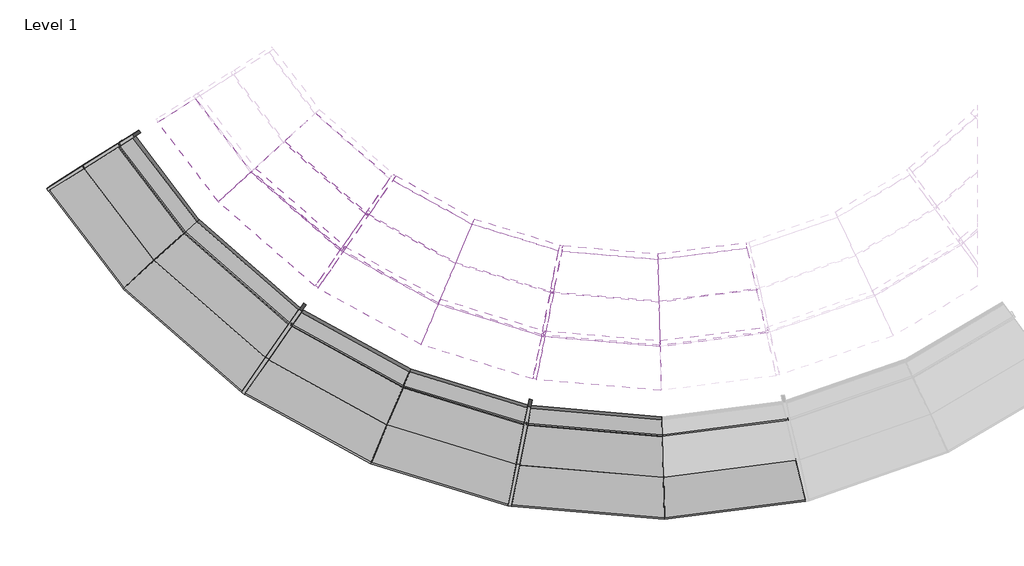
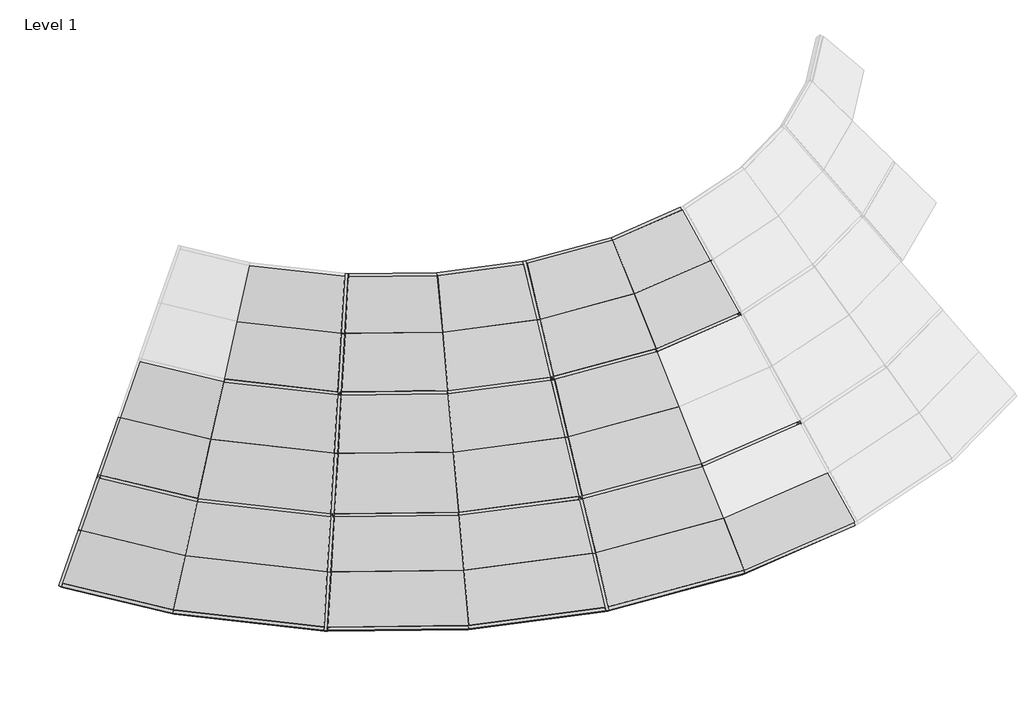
# One storey, part 1 of 2: 36 members, 31 plates.
"""IFC4 building model written with IfcOpenShell, lengths in millimetres."""

from ifc_helpers import new_model, si_unit, origin, place, context, project, spatial, transform, mapped, element, save
from components import member_a993bdff, member_64ad3ddf, member_56d069ed, member_b45a1477, member_31f4e101, member_a1d7378d, member_0bac036f, member_e9a455c1, member_9319c4a2, member_b02eb1a0, member_f55f91ff, member_0534a094, member_226e51d8, member_2e5d21c2, member_49f7380d, member_2f360e33, member_c28e9521, member_cc67d64b, member_50b54f6d, member_8a53927b, member_fc53ac5e, member_ebc3b6e9, member_abb03c45, member_4c4cfe9a, member_10256ac6, member_1aaaed21, member_643fa319, member_295a5b2f, member_dc7dd58b, member_6563c648, system_panel_glazed_624191a1, system_panel_glazed_b52af536, system_panel_glazed_36dbcd62, system_panel_glazed_2de7df7e, system_panel_glazed_fd240ddc, system_panel_glazed_68762a55, system_panel_glazed_360c3214, system_panel_glazed_6b9a0c10, system_panel_glazed_12144cfa, system_panel_glazed_97049040, system_panel_glazed_1057b75c, system_panel_glazed_ad4a3e8e, system_panel_glazed_f43337e1, system_panel_glazed_18ed63e1, system_panel_glazed_a21bd47d, system_panel_glazed_fd4f438a, system_panel_glazed_bbd553d4, system_panel_glazed_e0575ccd, system_panel_glazed_33f22fd7, system_panel_glazed_00944ce8, system_panel_glazed_3ab7e21a, system_panel_glazed_ec5c0f32, system_panel_glazed_562aa659, system_panel_glazed_28409379, system_panel_glazed_5fdba696, system_panel_glazed_e1973138, system_panel_glazed_29ad7663, system_panel_glazed_cde3eb99, system_panel_glazed_4134886b, system_panel_glazed_000a9f1f, system_panel_glazed_c75c15cb

model = new_model("IFC4")

# Units and contexts
model_context = context("Model", 3, world=origin())
ifc_project = project(units=[si_unit("LENGTHUNIT", "METRE", prefix="MILLI")], contexts=[model_context])

# Site, building, storey
site = spatial("IfcSite", under=ifc_project)
building = spatial("IfcBuilding", under=site)
storey = spatial("IfcBuildingStorey", under=building, Name="Level 1", Elevation=0.0)

# Members
placement = place(None, origin())
member_shape = member_a993bdff(model_context)
element("IfcMember", 1, ObjectType="Rectangular Mullion : 1.5\" x 2.5\" rectangular", at=placement, inside=storey, context=model_context, shape_type="MappedRepresentation", body=[
    mapped(member_shape, transform((-6841.3188567, -169.6858181, 981.6469515), x_axis=(0.5636611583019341, 0.42927745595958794, 0.7056960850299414), y_axis=(0.5614189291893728, 0.42756958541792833, -0.7085146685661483), z_axis=(-0.6058835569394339, 0.7955533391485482, -1.2187862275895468e-07))),
])
member_2_shape = member_64ad3ddf(model_context)
element("IfcMember", 2, ObjectType="Rectangular Mullion : 1.5\" x 2.5\" rectangular", at=placement, inside=storey, context=model_context, shape_type="MappedRepresentation", body=[
    mapped(member_2_shape, transform((-7672.1636982, -692.4934216, 0.0), x_axis=(-0.5693047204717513, 0.8209135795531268, 0.044643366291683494), y_axis=(0.5636612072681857, 0.4292773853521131, -0.7056960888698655), z_axis=(-0.5984798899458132, -0.3765923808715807, -0.7071067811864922))),
])
member_3_shape = member_56d069ed(model_context)
element("IfcMember", 3, ObjectType="Rectangular Mullion : 1.5\" x 2.5\" rectangular", at=placement, inside=storey, context=model_context, shape_type="MappedRepresentation", body=[
    mapped(member_3_shape, transform((-7250.8393516, -427.3758437, 497.7966805), x_axis=(-0.5693047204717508, 0.820913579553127, 0.04464336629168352), y_axis=(0.5636612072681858, 0.4292773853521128, -0.7056960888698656), z_axis=(-0.5984798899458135, -0.3765923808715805, -0.7071067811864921))),
])
member_4_shape = member_b45a1477(model_context)
element("IfcMember", 4, ObjectType="Rectangular Mullion : 1.5\" x 2.5\" rectangular", at=placement, inside=storey, context=model_context, shape_type="MappedRepresentation", body=[
    mapped(member_4_shape, transform((-6841.3189444, -169.6858733, 981.6469515), x_axis=(-0.5693047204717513, 0.820913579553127, 0.04464336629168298), y_axis=(0.563661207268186, 0.4292773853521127, -0.7056960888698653), z_axis=(-0.5984798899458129, -0.37659238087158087, -0.7071067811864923))),
])
member_5_shape = member_31f4e101(model_context)
element("IfcMember", 5, ObjectType="Rectangular Mullion : 1.5\" x 2.5\" rectangular", at=placement, inside=storey, context=model_context, shape_type="MappedRepresentation", body=[
    mapped(member_5_shape, transform((-5289.8761774, -495.1789903, 2022.8309839), x_axis=(0.4668071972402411, 0.5340948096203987, 0.7048643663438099), y_axis=(0.46386448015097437, 0.5307198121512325, -0.7093421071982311), z_axis=(-0.752941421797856, 0.6580875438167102, -3.7831857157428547e-06))),
])
member_6_shape = member_a1d7378d(model_context)
element("IfcMember", 6, ObjectType="Rectangular Mullion : 1.5\" x 2.5\" rectangular", at=placement, inside=storey, context=model_context, shape_type="MappedRepresentation", body=[
    mapped(member_6_shape, transform((-4241.3728252, -1411.5923329, 2022.8362519), x_axis=(0.3417091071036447, 0.6212001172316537, 0.7052271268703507), y_axis=(0.33989758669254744, 0.6179117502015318, -0.7089814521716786), z_axis=(-0.8761874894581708, 0.4819704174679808, 1.6517300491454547e-06))),
])
member_7_shape = member_0bac036f(model_context)
element("IfcMember", 7, ObjectType="Rectangular Mullion : 1.5\" x 2.5\" rectangular", at=placement, inside=storey, context=model_context, shape_type="MappedRepresentation", body=[
    mapped(member_7_shape, transform((-6058.6867468, -1197.3180572, 981.6471089), x_axis=(0.4668095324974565, 0.5340925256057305, 0.7048645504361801), y_axis=(0.46386293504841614, 0.5307214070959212, -0.7093419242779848), z_axis=(-0.7529409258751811, 0.6580881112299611, 8.541794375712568e-08))),
])
member_8_shape = member_e9a455c1(model_context)
element("IfcMember", 8, ObjectType="Rectangular Mullion : 1.5\" x 2.5\" rectangular", at=placement, inside=storey, context=model_context, shape_type="MappedRepresentation", body=[
    mapped(member_8_shape, transform((-4834.2984099, -2267.4623211, 981.64697), x_axis=(0.34170817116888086, 0.6212006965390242, 0.7052270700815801), y_axis=(0.339899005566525, 0.6179109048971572, -0.7089815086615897), z_axis=(-0.8761873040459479, 0.481970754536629, -2.937531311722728e-07))),
])
member_9_shape = member_9319c4a2(model_context)
element("IfcMember", 9, ObjectType="Rectangular Mullion : 1.5\" x 2.5\" rectangular", at=placement, inside=storey, context=model_context, shape_type="MappedRepresentation", body=[
    mapped(member_9_shape, transform((-5407.6603038, -3061.8516999, 0.0), x_axis=(-0.463862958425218, -0.5307213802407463, -0.7093419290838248), y_axis=(0.4668094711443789, 0.53409258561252, -0.7048645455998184), z_axis=(0.7529409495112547, -0.6580880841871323, 0.0))),
])
member_10_shape = member_b02eb1a0(model_context)
element("IfcMember", 10, ObjectType="Rectangular Mullion : 1.5\" x 2.5\" rectangular", at=placement, inside=storey, context=model_context, shape_type="MappedRepresentation", body=[
    mapped(member_10_shape, transform((-3657.5728627, -568.8949017, 3048.0), x_axis=(0.8220122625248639, -0.5694697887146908, 0.0), y_axis=(0.4026759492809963, 0.5812504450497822, -0.7071067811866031), z_axis=(0.40267594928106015, 0.5812504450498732, 0.707106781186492))),
])
element("IfcMember", 11, ObjectType="Rectangular Mullion : 1.5\" x 2.5\" rectangular", at=placement, inside=storey, context=model_context, shape_type="MappedRepresentation", body=[
    mapped(member_10_shape, transform((-1709.2857367, -1393.2573099, 3048.0), x_axis=(0.981106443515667, -0.19346872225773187, 0.0), y_axis=(0.13680304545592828, 0.69374701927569, -0.7071067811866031), z_axis=(0.13680304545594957, 0.693747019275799, 0.7071067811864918))),
])
member_11_shape = member_f55f91ff(model_context)
element("IfcMember", 12, ObjectType="Rectangular Mullion : 1.5\" x 2.5\" rectangular", at=placement, inside=storey, context=model_context, shape_type="MappedRepresentation", body=[
    mapped(member_11_shape, transform((-5109.836597, -2665.193286, 497.7967002), x_axis=(0.8220122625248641, -0.5694697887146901, 0.0), y_axis=(0.4026759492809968, 0.5812504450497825, -0.7071067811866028), z_axis=(0.40267594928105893, 0.5812504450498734, 0.7071067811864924))),
])
element("IfcMember", 13, ObjectType="Rectangular Mullion : 1.5\" x 2.5\" rectangular", at=placement, inside=storey, context=model_context, shape_type="MappedRepresentation", body=[
    mapped(member_11_shape, transform((-2202.6703142, -3895.2782177, 497.7966818), x_axis=(0.9811064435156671, -0.19346872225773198, 0.0), y_axis=(0.13680304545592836, 0.6937470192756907, -0.7071067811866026), z_axis=(0.13680304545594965, 0.6937470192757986, 0.7071067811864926))),
])
member_12_shape = member_0534a094(model_context)
element("IfcMember", 14, ObjectType="Rectangular Mullion : 1.5\" x 2.5\" rectangular", at=placement, inside=storey, context=model_context, shape_type="MappedRepresentation", body=[
    mapped(member_12_shape, transform((-4834.2984861, -2267.462431, 981.64697), x_axis=(0.8220122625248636, -0.569469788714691, 0.0), y_axis=(0.4026759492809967, 0.5812504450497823, -0.7071067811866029), z_axis=(0.40267594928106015, 0.5812504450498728, 0.7071067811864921))),
])
element("IfcMember", 15, ObjectType="Rectangular Mullion : 1.5\" x 2.5\" rectangular", at=placement, inside=storey, context=model_context, shape_type="MappedRepresentation", body=[
    mapped(member_12_shape, transform((-2109.0604205, -3420.5695992, 981.6469527), x_axis=(0.9811064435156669, -0.19346872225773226, 0.0), y_axis=(0.1368030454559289, 0.69374701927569, -0.707106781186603), z_axis=(0.13680304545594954, 0.693747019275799, 0.7071067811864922))),
])
member_13_shape = member_226e51d8(model_context)
element("IfcMember", 16, ObjectType="Rectangular Mullion : 1.5\" x 2.5\" rectangular", at=placement, inside=storey, context=model_context, shape_type="MappedRepresentation", body=[
    mapped(member_13_shape, transform((-4533.2776144, -1832.9479885, 1510.2454623), x_axis=(0.822012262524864, -0.5694697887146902, 0.0), y_axis=(0.4026759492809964, 0.5812504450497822, -0.7071067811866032), z_axis=(0.40267594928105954, 0.5812504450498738, 0.7071067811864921))),
])
element("IfcMember", 17, ObjectType="Rectangular Mullion : 1.5\" x 2.5\" rectangular", at=placement, inside=storey, context=model_context, shape_type="MappedRepresentation", body=[
    mapped(member_13_shape, transform((-2006.7931439, -2901.9582037, 1510.2454539), x_axis=(0.9811064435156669, -0.19346872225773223, 0.0), y_axis=(0.13680304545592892, 0.69374701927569, -0.7071067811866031), z_axis=(0.1368030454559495, 0.6937470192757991, 0.7071067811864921))),
])
member_14_shape = member_2e5d21c2(model_context)
element("IfcMember", 18, ObjectType="Rectangular Mullion : 1.5\" x 2.5\" rectangular", at=placement, inside=storey, context=model_context, shape_type="MappedRepresentation", body=[
    mapped(member_14_shape, transform((-4241.3726457, -1411.5920737, 2022.8362519), x_axis=(0.8220122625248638, -0.5694697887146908, 0.0), y_axis=(0.40267594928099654, 0.5812504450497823, -0.707106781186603), z_axis=(0.40267594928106, 0.5812504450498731, 0.7071067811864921))),
])
element("IfcMember", 19, ObjectType="Rectangular Mullion : 1.5\" x 2.5\" rectangular", at=placement, inside=storey, context=model_context, shape_type="MappedRepresentation", body=[
    mapped(member_14_shape, transform((-1907.6240078, -2399.0579039, 2022.8303045), x_axis=(0.981106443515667, -0.19346872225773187, 0.0), y_axis=(0.13680304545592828, 0.6937470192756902, -0.7071067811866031), z_axis=(0.13680304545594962, 0.6937470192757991, 0.7071067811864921))),
])
member_15_shape = member_49f7380d(model_context)
element("IfcMember", 20, ObjectType="Rectangular Mullion : 1.5\" x 2.5\" rectangular", at=placement, inside=storey, context=model_context, shape_type="MappedRepresentation", body=[
    mapped(member_15_shape, transform((-3949.4713398, -990.2414461, 2535.4206096), x_axis=(0.8220122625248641, -0.5694697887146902, 0.0), y_axis=(0.4026759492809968, 0.5812504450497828, -0.7071067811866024), z_axis=(0.402675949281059, 0.5812504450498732, 0.7071067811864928))),
])
element("IfcMember", 21, ObjectType="Rectangular Mullion : 1.5\" x 2.5\" rectangular", at=placement, inside=storey, context=model_context, shape_type="MappedRepresentation", body=[
    mapped(member_15_shape, transform((-1808.4548721, -1896.1576058, 2535.4151533), x_axis=(0.9811064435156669, -0.19346872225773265, 0.0), y_axis=(0.13680304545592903, 0.6937470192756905, -0.7071067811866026), z_axis=(0.13680304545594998, 0.6937470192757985, 0.7071067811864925))),
])
member_16_shape = member_2f360e33(model_context)
element("IfcMember", 22, ObjectType="Rectangular Mullion : 1.5\" x 2.5\" rectangular", at=placement, inside=storey, context=model_context, shape_type="MappedRepresentation", body=[
    mapped(member_16_shape, transform((-2724.3539922, -1082.2375426, 3048.0), x_axis=(0.2066064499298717, 0.6742968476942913, 0.7089693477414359), y_axis=(0.20769920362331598, 0.6778632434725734, -0.7052392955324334), z_axis=(-0.9561248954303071, 0.2929593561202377, 0.0))),
])
member_17_shape = member_c28e9521(model_context)
element("IfcMember", 23, ObjectType="Rectangular Mullion : 1.5\" x 2.5\" rectangular", at=placement, inside=storey, context=model_context, shape_type="MappedRepresentation", body=[
    mapped(member_17_shape, transform((-3123.5212422, -2026.5026563, 2022.8341441), x_axis=(0.20770103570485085, 0.6778625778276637, 0.7052393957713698), y_axis=(0.20660425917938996, 0.6742976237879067, -0.7089692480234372), z_axis=(-0.9561249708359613, 0.29295911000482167, 3.0191165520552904e-06))),
])
member_18_shape = member_cc67d64b(model_context)
element("IfcMember", 24, ObjectType="Rectangular Mullion : 1.5\" x 2.5\" rectangular", at=placement, inside=storey, context=model_context, shape_type="MappedRepresentation", body=[
    mapped(member_18_shape, transform((-1907.6236973, -2399.0563291, 2022.8303044), x_axis=(0.06023894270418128, 0.7066707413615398, 0.7049735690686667), y_axis=(0.059882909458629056, 0.7024256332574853, -0.7092335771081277), z_axis=(-0.9963861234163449, 0.08493934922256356, -4.122546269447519e-06))),
])
member_19_shape = member_50b54f6d(model_context)
element("IfcMember", 25, ObjectType="Rectangular Mullion : 1.5\" x 2.5\" rectangular", at=placement, inside=storey, context=model_context, shape_type="MappedRepresentation", body=[
    mapped(member_19_shape, transform((-3528.9242525, -2985.5190075, 981.6474077), x_axis=(0.20769946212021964, 0.67786314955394, 0.7052393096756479), y_axis=(0.20660630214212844, 0.6742969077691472, -0.7089693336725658), z_axis=(-0.9561248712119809, 0.29295943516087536, 3.06365223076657e-07))),
])
member_20_shape = member_8a53927b(model_context)
element("IfcMember", 26, ObjectType="Rectangular Mullion : 1.5\" x 2.5\" rectangular", at=placement, inside=storey, context=model_context, shape_type="MappedRepresentation", body=[
    mapped(member_20_shape, transform((-2109.0603864, -3420.5694261, 981.6469527), x_axis=(0.06024191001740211, 0.7066703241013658, 0.7049737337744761), y_axis=(0.05988047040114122, 0.7024260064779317, -0.7092334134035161), z_axis=(-0.9963860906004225, 0.08493973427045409, -2.6714959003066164e-07))),
])
member_21_shape = member_fc53ac5e(model_context)
element("IfcMember", 27, ObjectType="Rectangular Mullion : 1.5\" x 2.5\" rectangular", at=placement, inside=storey, context=model_context, shape_type="MappedRepresentation", body=[
    mapped(member_21_shape, transform((-2317.1925814, -4378.088874, 0.0), x_axis=(-0.20660644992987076, -0.6742968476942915, -0.7089693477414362), y_axis=(0.20769920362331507, 0.6778632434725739, -0.7052392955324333), z_axis=(0.9561248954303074, -0.2929593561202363, 0.0))),
])
member_22_shape = member_ebc3b6e9(model_context)
element("IfcMember", 28, ObjectType="Rectangular Mullion : 1.5\" x 2.5\" rectangular", at=placement, inside=storey, context=model_context, shape_type="MappedRepresentation", body=[
    mapped(member_22_shape, transform((-579.2926049, -1489.5868891, 3048.0), x_axis=(-0.08880436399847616, 0.699661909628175, 0.7089337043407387), y_axis=(-0.08926503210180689, 0.7032913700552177, -0.705275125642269), z_axis=(-0.9920410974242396, -0.12591449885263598, 0.0))),
])
member_23_shape = member_abb03c45(model_context)
element("IfcMember", 29, ObjectType="Rectangular Mullion : 1.5\" x 2.5\" rectangular", at=placement, inside=storey, context=model_context, shape_type="MappedRepresentation", body=[
    mapped(member_23_shape, transform((-554.0640778, -2514.4383187, 2022.8359044), x_axis=(-0.08927108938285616, 0.7032909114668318, 0.705274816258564), y_axis=(-0.0888037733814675, 0.6996616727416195, -0.7089340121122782), z_axis=(-0.9920406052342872, -0.12591837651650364, -4.673001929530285e-06))),
])
member_24_shape = member_4c4cfe9a(model_context)
element("IfcMember", 30, ObjectType="Rectangular Mullion : 1.5\" x 2.5\" rectangular", at=placement, inside=storey, context=model_context, shape_type="MappedRepresentation", body=[
    mapped(member_24_shape, transform((-528.4410883, -3555.3138857, 981.6473765), x_axis=(-0.08926489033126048, 0.703291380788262, 0.7052751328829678), y_axis=(-0.08880447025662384, 0.6996619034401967, -0.7089336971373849), z_axis=(-0.9920411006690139, -0.1259144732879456, 1.7542740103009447e-07))),
])
member_25_shape = member_10256ac6(model_context)
element("IfcMember", 31, ObjectType="Rectangular Mullion : 1.5\" x 2.5\" rectangular", at=placement, inside=storey, context=model_context, shape_type="MappedRepresentation", body=[
    mapped(member_25_shape, transform((1133.5252964, -4328.785439, 0.0), x_axis=(0.08880436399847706, -0.6996619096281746, -0.7089337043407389), y_axis=(-0.08926503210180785, 0.7032913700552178, -0.7052751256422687), z_axis=(0.9920410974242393, 0.12591449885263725, 0.0))),
])
member_26_shape = member_1aaaed21(model_context)
element("IfcMember", 32, ObjectType="Rectangular Mullion : 1.5\" x 2.5\" rectangular", at=placement, inside=storey, context=model_context, shape_type="MappedRepresentation", body=[
    mapped(member_26_shape, transform((-1690.3045819, -1394.8754141, 3048.0), x_axis=(0.05988036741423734, 0.7024260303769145, 0.7092333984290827), y_axis=(0.06024218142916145, 0.7066702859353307, -0.7049737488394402), z_axis=(-0.996386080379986, 0.0849398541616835, 0.0))),
])
member_27_shape = member_643fa319(model_context)
element("IfcMember", 33, ObjectType="Rectangular Mullion : 1.5\" x 2.5\" rectangular", at=placement, inside=storey, context=model_context, shape_type="MappedRepresentation", body=[
    mapped(member_27_shape, transform((-3640.8814954, -578.0764462, 3048.0), x_axis=(0.3398988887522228, 0.6179109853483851, 0.7089814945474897), y_axis=(0.3417084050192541, 0.6212005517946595, -0.7052270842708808), z_axis=(-0.8761872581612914, 0.4819708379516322, 0.0))),
])
member_28_shape = member_295a5b2f(model_context)
element("IfcMember", 34, ObjectType="Rectangular Mullion : 1.5\" x 2.5\" rectangular", at=placement, inside=storey, context=model_context, shape_type="MappedRepresentation", body=[
    mapped(member_28_shape, transform((-6783.5336838, -1859.3060323, 0.0), x_axis=(-0.561418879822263, -0.4275696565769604, -0.7085146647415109), y_axis=(0.5636612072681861, 0.4292773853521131, -0.705696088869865), z_axis=(0.6058835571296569, -0.7955533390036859, 0.0))),
])
member_29_shape = member_dc7dd58b(model_context)
element("IfcMember", 35, ObjectType="Rectangular Mullion : 1.5\" x 2.5\" rectangular", at=placement, inside=storey, context=model_context, shape_type="MappedRepresentation", body=[
    mapped(member_29_shape, transform((-3911.1456315, -3889.6971781, 0.0), x_axis=(-0.3398988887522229, -0.6179109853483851, -0.7089814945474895), y_axis=(0.34170840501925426, 0.6212005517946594, -0.705227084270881), z_axis=(0.8761872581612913, -0.48197083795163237, 0.0))),
])
member_30_shape = member_6563c648(model_context)
element("IfcMember", 36, ObjectType="Rectangular Mullion : 1.5\" x 2.5\" rectangular", at=placement, inside=storey, context=model_context, shape_type="MappedRepresentation", body=[
    mapped(member_30_shape, transform((-504.2834281, -4536.6637873, 0.0), x_axis=(-0.05988036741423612, -0.7024260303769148, -0.7092333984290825), y_axis=(0.0602421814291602, 0.7066702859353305, -0.7049737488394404), z_axis=(0.9963860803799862, -0.08493985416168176, 0.0))),
])

# Plates
system_panel_glazed_shape = system_panel_glazed_624191a1(model_context)
element("IfcPlate", 37, ObjectType="System Panel : Glazed", at=placement, inside=storey, context=model_context, shape_type="MappedRepresentation", body=[
    mapped(system_panel_glazed_shape, transform((-6821.8351252, -990.6781046, 497.7968484), x_axis=(0.6058835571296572, -0.795553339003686, 0.0), y_axis=(-0.563661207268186, -0.42927738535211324, 0.7056960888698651), z_axis=(-0.5614188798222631, -0.4275696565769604, -0.7085146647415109))),
])
system_panel_glazed_2_shape = system_panel_glazed_b52af536(model_context)
element("IfcPlate", 38, ObjectType="System Panel : Glazed", at=placement, inside=storey, context=model_context, shape_type="MappedRepresentation", body=[
    mapped(system_panel_glazed_2_shape, transform((-6449.1327719, -706.8326051, 968.1499047), x_axis=(0.605883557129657, -0.7955533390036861, 0.0), y_axis=(-0.5636612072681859, -0.42927738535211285, 0.7056960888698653), z_axis=(-0.5614188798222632, -0.4275696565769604, -0.7085146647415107))),
])
system_panel_glazed_3_shape = system_panel_glazed_36dbcd62(model_context)
element("IfcPlate", 39, ObjectType="System Panel : Glazed", at=placement, inside=storey, context=model_context, shape_type="MappedRepresentation", body=[
    mapped(system_panel_glazed_3_shape, transform((-6019.5825068, -379.6924508, 1510.2454287), x_axis=(0.6058835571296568, -0.7955533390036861, 0.0), y_axis=(-0.5636612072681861, -0.4292773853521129, 0.7056960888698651), z_axis=(-0.5614188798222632, -0.4275696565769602, -0.7085146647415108))),
])
system_panel_glazed_4_shape = system_panel_glazed_2de7df7e(model_context)
element("IfcPlate", 40, ObjectType="System Panel : Glazed", at=placement, inside=storey, context=model_context, shape_type="MappedRepresentation", body=[
    mapped(system_panel_glazed_4_shape, transform((-5624.1106074, -78.5060059, 2009.3337806), x_axis=(0.6058835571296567, -0.7955533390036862, 0.0), y_axis=(-0.5636612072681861, -0.4292773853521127, 0.7056960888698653), z_axis=(-0.5614188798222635, -0.4275696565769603, -0.7085146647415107))),
])
system_panel_glazed_5_shape = system_panel_glazed_fd240ddc(model_context)
element("IfcPlate", 41, ObjectType="System Panel : Glazed", at=placement, inside=storey, context=model_context, shape_type="MappedRepresentation", body=[
    mapped(system_panel_glazed_5_shape, transform((-4120.1015523, -200.3012155, 3020.9740725), x_axis=(0.752940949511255, -0.658088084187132, 0.0), y_axis=(-0.4668094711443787, -0.5340925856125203, 0.7048645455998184), z_axis=(-0.4638629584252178, -0.5307213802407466, -0.7093419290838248))),
])
system_panel_glazed_6_shape = system_panel_glazed_68762a55(model_context)
element("IfcPlate", 42, ObjectType="System Panel : Glazed", at=placement, inside=storey, context=model_context, shape_type="MappedRepresentation", body=[
    mapped(system_panel_glazed_6_shape, transform((-3195.5456794, -853.7116213, 3020.9878051), x_axis=(0.8761872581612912, -0.4819708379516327, 0.0), y_axis=(-0.3417084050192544, -0.6212005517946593, 0.7052270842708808), z_axis=(-0.3398988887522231, -0.6179109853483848, -0.7089814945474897))),
])
system_panel_glazed_7_shape = system_panel_glazed_360c3214(model_context)
element("IfcPlate", 43, ObjectType="System Panel : Glazed", at=placement, inside=storey, context=model_context, shape_type="MappedRepresentation", body=[
    mapped(system_panel_glazed_7_shape, transform((-5770.0932717, -2088.1132406, 497.7968484), x_axis=(0.7529409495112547, -0.6580880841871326, 0.0), y_axis=(-0.4668094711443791, -0.53409258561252, 0.7048645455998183), z_axis=(-0.4638629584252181, -0.5307213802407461, -0.7093419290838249))),
])
system_panel_glazed_8_shape = system_panel_glazed_6b9a0c10(model_context)
element("IfcPlate", 44, ObjectType="System Panel : Glazed", at=placement, inside=storey, context=model_context, shape_type="MappedRepresentation", body=[
    mapped(system_panel_glazed_8_shape, transform((-4405.2101929, -3052.7918397, 497.7971671), x_axis=(0.8761872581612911, -0.48197083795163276, 0.0), y_axis=(-0.34170840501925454, -0.6212005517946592, 0.7052270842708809), z_axis=(-0.3398988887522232, -0.617910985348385, -0.7089814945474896))),
])
system_panel_glazed_9_shape = system_panel_glazed_12144cfa(model_context)
element("IfcPlate", 45, ObjectType="System Panel : Glazed", at=placement, inside=storey, context=model_context, shape_type="MappedRepresentation", body=[
    mapped(system_panel_glazed_9_shape, transform((-5453.6870246, -1726.1021092, 981.6471089), x_axis=(0.7529409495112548, -0.6580880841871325, 0.0), y_axis=(-0.4668094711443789, -0.5340925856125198, 0.7048645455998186), z_axis=(-0.4638629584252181, -0.5307213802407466, -0.7093419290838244))),
])
system_panel_glazed_10_shape = system_panel_glazed_97049040(model_context)
element("IfcPlate", 46, ObjectType="System Panel : Glazed", at=placement, inside=storey, context=model_context, shape_type="MappedRepresentation", body=[
    mapped(system_panel_glazed_10_shape, transform((-4173.243427, -2631.0934043, 981.6474077), x_axis=(0.8761872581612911, -0.48197083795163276, 0.0), y_axis=(-0.34170840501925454, -0.6212005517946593, 0.7052270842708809), z_axis=(-0.3398988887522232, -0.6179109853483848, -0.7089814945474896))),
])
system_panel_glazed_11_shape = system_panel_glazed_1057b75c(model_context)
element("IfcPlate", 47, ObjectType="System Panel : Glazed", at=placement, inside=storey, context=model_context, shape_type="MappedRepresentation", body=[
    mapped(system_panel_glazed_11_shape, transform((-5108.0184751, -1330.6109696, 1510.2454623), x_axis=(0.7529409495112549, -0.6580880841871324, 0.0), y_axis=(-0.4668094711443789, -0.5340925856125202, 0.7048645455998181), z_axis=(-0.46386295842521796, -0.5307213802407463, -0.7093419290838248))),
])
system_panel_glazed_12_shape = system_panel_glazed_ad4a3e8e(model_context)
element("IfcPlate", 48, ObjectType="System Panel : Glazed", at=placement, inside=storey, context=model_context, shape_type="MappedRepresentation", body=[
    mapped(system_panel_glazed_12_shape, transform((-3919.8235074, -2170.3947781, 1510.2458771), x_axis=(0.876187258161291, -0.48197083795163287, 0.0), y_axis=(-0.3417084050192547, -0.6212005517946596, 0.7052270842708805), z_axis=(-0.33989888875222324, -0.6179109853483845, -0.7089814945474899))),
])
system_panel_glazed_13_shape = system_panel_glazed_f43337e1(model_context)
element("IfcPlate", 49, ObjectType="System Panel : Glazed", at=placement, inside=storey, context=model_context, shape_type="MappedRepresentation", body=[
    mapped(system_panel_glazed_13_shape, transform((-4772.8213012, -947.1004117, 2022.8309842), x_axis=(0.7529409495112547, -0.6580880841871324, 0.0), y_axis=(-0.46680947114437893, -0.53409258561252, 0.7048645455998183), z_axis=(-0.463862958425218, -0.5307213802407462, -0.7093419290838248))),
])
system_panel_glazed_14_shape = system_panel_glazed_18ed63e1(model_context)
element("IfcPlate", 50, ObjectType="System Panel : Glazed", at=placement, inside=storey, context=model_context, shape_type="MappedRepresentation", body=[
    mapped(system_panel_glazed_14_shape, transform((-3674.0791762, -1723.6498015, 2022.8341447), x_axis=(0.8761872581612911, -0.4819708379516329, 0.0), y_axis=(-0.3417084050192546, -0.6212005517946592, 0.705227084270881), z_axis=(-0.33989888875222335, -0.617910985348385, -0.7089814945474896))),
])
system_panel_glazed_15_shape = system_panel_glazed_a21bd47d(model_context)
element("IfcPlate", 51, ObjectType="System Panel : Glazed", at=placement, inside=storey, context=model_context, shape_type="MappedRepresentation", body=[
    mapped(system_panel_glazed_15_shape, transform((-4437.6215934, -563.5866528, 2535.4206096), x_axis=(0.7529409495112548, -0.6580880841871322, 0.0), y_axis=(-0.4668094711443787, -0.5340925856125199, 0.7048645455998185), z_axis=(-0.463862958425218, -0.5307213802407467, -0.7093419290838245))),
])
system_panel_glazed_16_shape = system_panel_glazed_fd4f438a(model_context)
element("IfcPlate", 52, ObjectType="System Panel : Glazed", at=placement, inside=storey, context=model_context, shape_type="MappedRepresentation", body=[
    mapped(system_panel_glazed_16_shape, transform((-3428.3355985, -1276.906457, 2535.4206096), x_axis=(0.8761872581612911, -0.48197083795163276, 0.0), y_axis=(-0.3417084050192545, -0.621200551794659, 0.7052270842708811), z_axis=(-0.33989888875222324, -0.6179109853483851, -0.7089814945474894))),
])
system_panel_glazed_17_shape = system_panel_glazed_bbd553d4(model_context)
element("IfcPlate", 53, ObjectType="System Panel : Glazed", at=placement, inside=storey, context=model_context, shape_type="MappedRepresentation", body=[
    mapped(system_panel_glazed_17_shape, transform((-2233.8224788, -1260.6404001, 3020.9882679), x_axis=(0.9561248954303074, -0.2929593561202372, 0.0), y_axis=(-0.20769920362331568, -0.6778632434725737, 0.7052392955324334), z_axis=(-0.20660644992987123, -0.6742968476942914, -0.7089693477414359))),
])
system_panel_glazed_18_shape = system_panel_glazed_e0575ccd(model_context)
element("IfcPlate", 54, ObjectType="System Panel : Glazed", at=placement, inside=storey, context=model_context, shape_type="MappedRepresentation", body=[
    mapped(system_panel_glazed_18_shape, transform((-1137.0517684, -1468.9959931, 3020.9782075), x_axis=(0.9963860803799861, -0.0849398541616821, 0.0), y_axis=(-0.06024218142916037, -0.7066702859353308, 0.7049737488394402), z_axis=(-0.05988036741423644, -0.7024260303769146, -0.7092333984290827))),
])
system_panel_glazed_19_shape = system_panel_glazed_33f22fd7(model_context)
element("IfcPlate", 55, ObjectType="System Panel : Glazed", at=placement, inside=storey, context=model_context, shape_type="MappedRepresentation", body=[
    mapped(system_panel_glazed_19_shape, transform((-2969.1260259, -3660.4335278, 497.7971671), x_axis=(0.9561248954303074, -0.2929593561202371, 0.0), y_axis=(-0.20769920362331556, -0.6778632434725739, 0.7052392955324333), z_axis=(-0.20660644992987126, -0.6742968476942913, -0.7089693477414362))),
])
system_panel_glazed_20_shape = system_panel_glazed_00944ce8(model_context)
element("IfcPlate", 56, ObjectType="System Panel : Glazed", at=placement, inside=storey, context=model_context, shape_type="MappedRepresentation", body=[
    mapped(system_panel_glazed_20_shape, transform((-1350.0829292, -3967.9590793, 497.7971338), x_axis=(0.9963860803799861, -0.08493985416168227, 0.0), y_axis=(-0.06024218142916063, -0.7066702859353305, 0.7049737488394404), z_axis=(-0.05988036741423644, -0.7024260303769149, -0.7092333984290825))),
])
system_panel_glazed_21_shape = system_panel_glazed_3ab7e21a(model_context)
element("IfcPlate", 57, ObjectType="System Panel : Glazed", at=placement, inside=storey, context=model_context, shape_type="MappedRepresentation", body=[
    mapped(system_panel_glazed_21_shape, transform((-2828.1233189, -3200.2462321, 981.6474077), x_axis=(0.9561248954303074, -0.29295935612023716, 0.0), y_axis=(-0.20769920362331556, -0.6778632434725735, 0.7052392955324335), z_axis=(-0.20660644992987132, -0.6742968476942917, -0.7089693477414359))),
])
system_panel_glazed_22_shape = system_panel_glazed_ec5c0f32(model_context)
element("IfcPlate", 58, ObjectType="System Panel : Glazed", at=placement, inside=storey, context=model_context, shape_type="MappedRepresentation", body=[
    mapped(system_panel_glazed_22_shape, transform((-1309.2316197, -3488.7529287, 981.6473765), x_axis=(0.9963860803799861, -0.08493985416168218, 0.0), y_axis=(-0.060242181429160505, -0.7066702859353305, 0.7049737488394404), z_axis=(-0.05988036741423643, -0.7024260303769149, -0.7092333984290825))),
])
system_panel_glazed_23_shape = system_panel_glazed_562aa659(model_context)
element("IfcPlate", 59, ObjectType="System Panel : Glazed", at=placement, inside=storey, context=model_context, shape_type="MappedRepresentation", body=[
    mapped(system_panel_glazed_23_shape, transform((-2674.0801964, -2697.4991344, 1510.2458771), x_axis=(0.9561248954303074, -0.2929593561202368, 0.0), y_axis=(-0.20769920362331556, -0.6778632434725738, 0.7052392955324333), z_axis=(-0.2066064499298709, -0.6742968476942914, -0.708969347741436))),
])
system_panel_glazed_24_shape = system_panel_glazed_28409379(model_context)
element("IfcPlate", 60, ObjectType="System Panel : Glazed", at=placement, inside=storey, context=model_context, shape_type="MappedRepresentation", body=[
    mapped(system_panel_glazed_24_shape, transform((-1264.6022046, -2965.2280555, 1510.2458467), x_axis=(0.9963860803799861, -0.08493985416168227, 0.0), y_axis=(-0.060242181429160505, -0.7066702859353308, 0.7049737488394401), z_axis=(-0.05988036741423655, -0.7024260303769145, -0.7092333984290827))),
])
system_panel_glazed_25_shape = system_panel_glazed_5fdba696(model_context)
element("IfcPlate", 61, ObjectType="System Panel : Glazed", at=placement, inside=storey, context=model_context, shape_type="MappedRepresentation", body=[
    mapped(system_panel_glazed_25_shape, transform((-2524.7027353, -2209.9792516, 2022.8341447), x_axis=(0.9561248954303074, -0.29295935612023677, 0.0), y_axis=(-0.20769920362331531, -0.6778632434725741, 0.705239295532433), z_axis=(-0.2066064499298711, -0.6742968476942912, -0.7089693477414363))),
])
system_panel_glazed_26_shape = system_panel_glazed_e1973138(model_context)
element("IfcPlate", 62, ObjectType="System Panel : Glazed", at=placement, inside=storey, context=model_context, shape_type="MappedRepresentation", body=[
    mapped(system_panel_glazed_26_shape, transform((-1221.324375, -2457.5579424, 2022.8359047), x_axis=(0.9963860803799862, -0.08493985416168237, 0.0), y_axis=(-0.060242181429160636, -0.7066702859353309, 0.70497374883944), z_axis=(-0.05988036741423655, -0.7024260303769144, -0.709233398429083))),
])
system_panel_glazed_27_shape = system_panel_glazed_29ad7663(model_context)
element("IfcPlate", 63, ObjectType="System Panel : Glazed", at=placement, inside=storey, context=model_context, shape_type="MappedRepresentation", body=[
    mapped(system_panel_glazed_27_shape, transform((-2375.3261969, -1722.4629727, 2535.4186764), x_axis=(0.9561248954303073, -0.29295935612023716, 0.0), y_axis=(-0.20769920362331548, -0.6778632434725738, 0.7052392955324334), z_axis=(-0.20660644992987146, -0.6742968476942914, -0.708969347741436))),
])
system_panel_glazed_28_shape = system_panel_glazed_cde3eb99(model_context)
element("IfcPlate", 64, ObjectType="System Panel : Glazed", at=placement, inside=storey, context=model_context, shape_type="MappedRepresentation", body=[
    mapped(system_panel_glazed_28_shape, transform((-1178.0473051, -1949.8934226, 2535.4202911), x_axis=(0.9963860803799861, -0.08493985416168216, 0.0), y_axis=(-0.0602421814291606, -0.7066702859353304, 0.7049737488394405), z_axis=(-0.05988036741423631, -0.702426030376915, -0.7092333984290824))),
])
system_panel_glazed_29_shape = system_panel_glazed_4134886b(model_context)
element("IfcPlate", 65, ObjectType="System Panel : Glazed", at=placement, inside=storey, context=model_context, shape_type="MappedRepresentation", body=[
    mapped(system_panel_glazed_29_shape, transform((-63.8270896, -1451.2481551, 3020.9896259), x_axis=(0.9920410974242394, 0.12591449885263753, 0.0), y_axis=(0.089265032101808, -0.7032913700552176, 0.7052751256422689), z_axis=(0.08880436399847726, -0.6996619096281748, -0.7089337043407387))),
])
system_panel_glazed_30_shape = system_panel_glazed_000a9f1f(model_context)
element("IfcPlate", 66, ObjectType="System Panel : Glazed", at=placement, inside=storey, context=model_context, shape_type="MappedRepresentation", body=[
    mapped(system_panel_glazed_30_shape, transform((252.2401147, -3941.4410215, 497.7971338), x_axis=(0.9920410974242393, 0.12591449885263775, 0.0), y_axis=(0.08926503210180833, -0.7032913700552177, 0.7052751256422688), z_axis=(0.08880436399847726, -0.6996619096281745, -0.7089337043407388))),
])
system_panel_glazed_31_shape = system_panel_glazed_c75c15cb(model_context)
element("IfcPlate", 67, ObjectType="System Panel : Glazed", at=placement, inside=storey, context=model_context, shape_type="MappedRepresentation", body=[
    mapped(system_panel_glazed_31_shape, transform((-3.0030954, -1930.4616418, 2535.4256906), x_axis=(0.9920410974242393, 0.12591449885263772, 0.0), y_axis=(0.08926503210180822, -0.7032913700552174, 0.7052751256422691), z_axis=(0.08880436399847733, -0.6996619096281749, -0.7089337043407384))),
])

save(model, "model.ifc")
